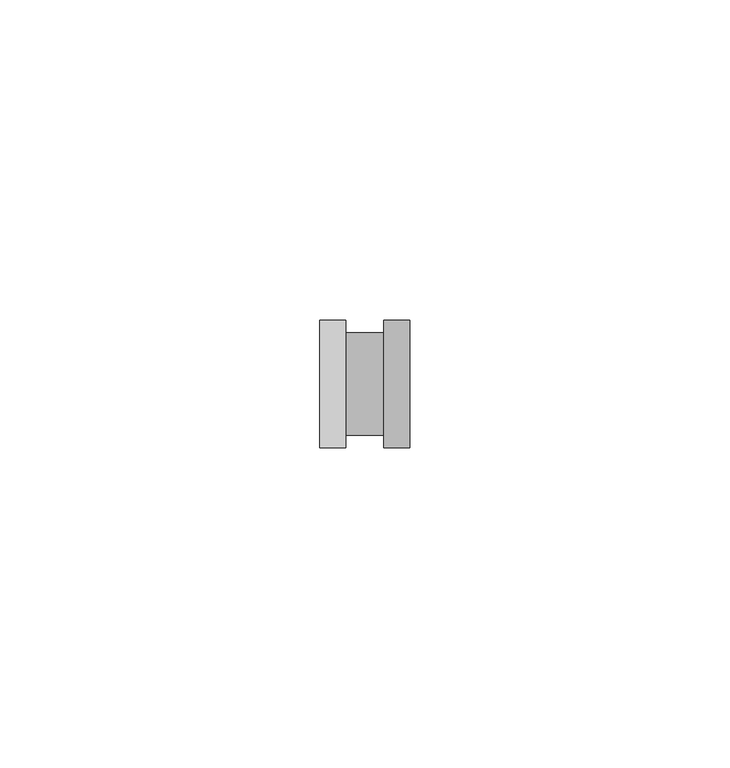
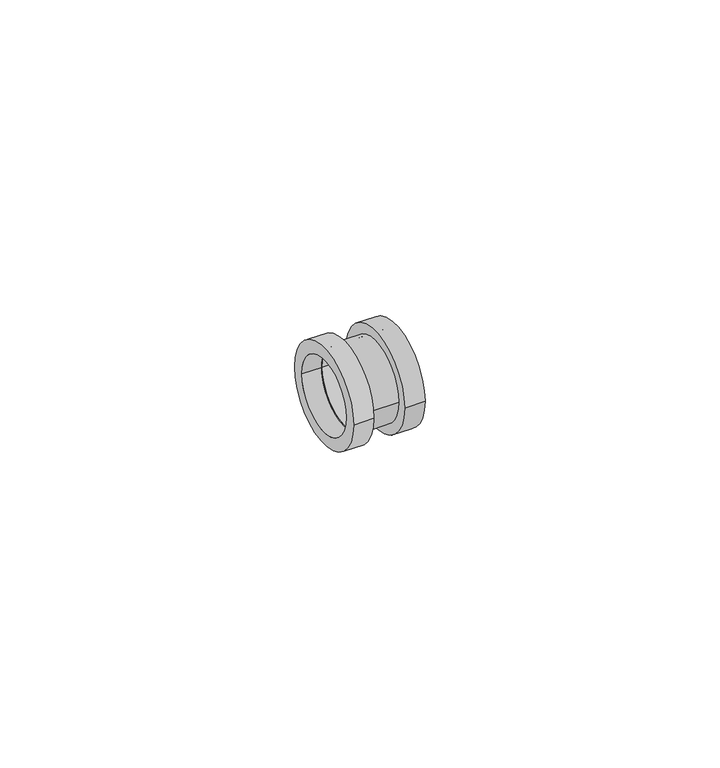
"""IFC4 building model written with IfcOpenShell, lengths in millimetres: pipe fitting geometry, БИР ПЕКС_НПР_Соединитель_Резьба_Внутренняя : Соединитель прямой с внутренней резьбой."""

from ifc_helpers import new_model, si_unit, point, frame, origin, origin_2d, place, context, project, spatial, circle_curve, trimmed, segment, composite_curve, outline, extrude, source, transform, mapped, element, save


def pipe_fitting_0aba7e9f(model_context):
    return source(origin(), model_context, "Body", "SweptSolid", [
        extrude(outline(composite_curve([segment(trimmed(circle_curve(origin_2d(), 8.0), [point((-8.0, 0.0))], [point((8.0, 0.0))], False, "CARTESIAN"), True, "CONTINUOUS"), segment(trimmed(circle_curve(origin_2d(), 8.0), [point((8.0, 0.0))], [point((-8.0, 0.0))], False, "CARTESIAN"), True, "CONTINUOUS")], self_intersect=False), holes=[composite_curve([segment(trimmed(circle_curve(origin_2d(), 7.5), [point((-7.5, 0.0))], [point((7.5, 0.0))], True, "CARTESIAN"), True, "CONTINUOUS"), segment(trimmed(circle_curve(origin_2d(), 7.5), [point((7.5, 0.0))], [point((-7.5, 0.0))], True, "CARTESIAN"), True, "CONTINUOUS")], self_intersect=False)]), frame((-3.0, 0.0, 0.0), z_axis=(1.0, 0.0, 0.0), x_axis=(0.0, 1.0, 0.0)), (0.0, 0.0, 1.0), 6.0),
        extrude(outline(composite_curve([segment(trimmed(circle_curve(origin_2d(), 10.0), [point((-10.0, 0.0))], [point((10.0, 0.0))], False, "CARTESIAN"), True, "CONTINUOUS"), segment(trimmed(circle_curve(origin_2d(), 10.0), [point((10.0, 0.0))], [point((-10.0, 0.0))], False, "CARTESIAN"), True, "CONTINUOUS")], self_intersect=False), holes=[composite_curve([segment(trimmed(circle_curve(origin_2d(), 7.5), [point((-7.5, 0.0))], [point((7.5, 0.0))], True, "CARTESIAN"), True, "CONTINUOUS"), segment(trimmed(circle_curve(origin_2d(), 7.5), [point((7.5, 0.0))], [point((-7.5, 0.0))], True, "CARTESIAN"), True, "CONTINUOUS")], self_intersect=False)]), frame((3.0, 0.0, 0.0), z_axis=(1.0, 0.0, 0.0), x_axis=(0.0, 1.0, 0.0)), (0.0, 0.0, 1.0), 4.0),
        extrude(outline(composite_curve([segment(trimmed(circle_curve(origin_2d(), 10.0), [point((-10.0, 0.0))], [point((10.0, 0.0))], False, "CARTESIAN"), True, "CONTINUOUS"), segment(trimmed(circle_curve(origin_2d(), 10.0), [point((10.0, 0.0))], [point((-10.0, 0.0))], False, "CARTESIAN"), True, "CONTINUOUS")], self_intersect=False), holes=[composite_curve([segment(trimmed(circle_curve(origin_2d(), 7.5), [point((-7.5, 0.0))], [point((7.5, 0.0))], True, "CARTESIAN"), True, "CONTINUOUS"), segment(trimmed(circle_curve(origin_2d(), 7.5), [point((7.5, 0.0))], [point((-7.5, 0.0))], True, "CARTESIAN"), True, "CONTINUOUS")], self_intersect=False)]), frame((-7.0, 0.0, 0.0), z_axis=(1.0, 0.0, 0.0), x_axis=(0.0, 1.0, 0.0)), (0.0, 0.0, 1.0), 4.0),
    ])


if __name__ == "__main__":
    model = new_model("IFC4")
    model_context = context("Model", 3, world=origin())
    ifc_project = project(units=[si_unit("LENGTHUNIT", "METRE", prefix="MILLI")], contexts=[model_context])
    site = spatial("IfcSite", under=ifc_project)
    building = spatial("IfcBuilding", under=site)
    placement = place(None, origin())
    pipe_fitting_shape = pipe_fitting_0aba7e9f(model_context)
    element("IfcPipeFitting", 1, ObjectType="БИР ПЕКС_НПР_Соединитель_Резьба_Внутренняя : Соединитель прямой с внутренней резьбой", at=placement, inside=building, context=model_context, shape_type="MappedRepresentation", body=[
        mapped(pipe_fitting_shape, transform((0.0, 0.0, 0.0), x_axis=(1.0, 0.0, 0.0), y_axis=(0.0, 1.0, 0.0), z_axis=(0.0, 0.0, 1.0))),
    ])
    save(model, "model.ifc")
